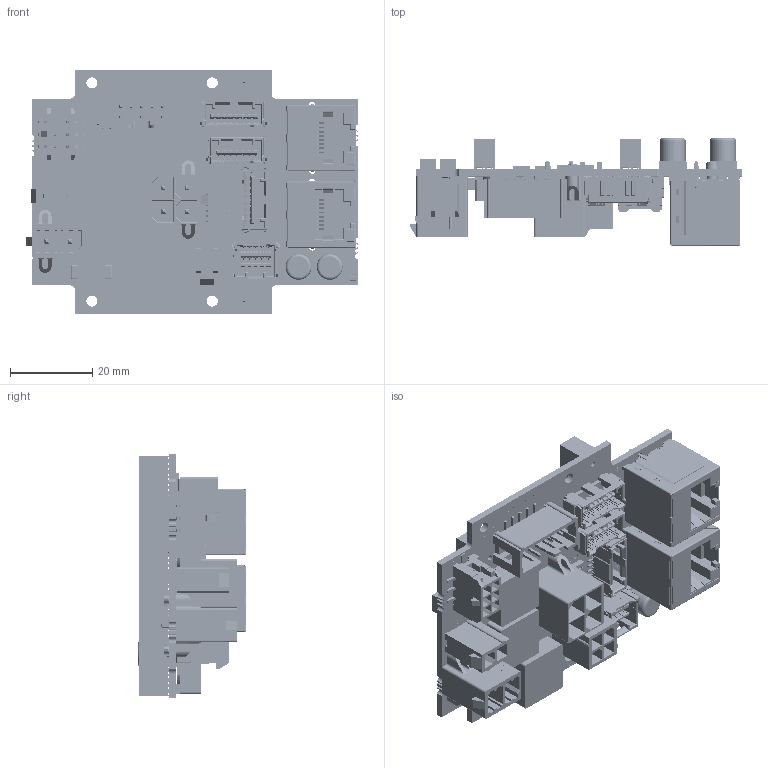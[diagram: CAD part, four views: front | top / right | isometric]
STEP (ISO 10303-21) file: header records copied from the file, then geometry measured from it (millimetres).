
FILE_DESCRIPTION((''),'2;1');
FILE_NAME('EPOS4_POWERCB_ETHERCAT_ASM','2018-06-08T',('mmagrari'),(''),'CREO PARAMETRIC BY PTC INC, 2017020','CREO PARAMETRIC BY PTC INC, 2017020','');
FILE_SCHEMA(('CONFIG_CONTROL_DESIGN'));
Products named in the file (34): EPOS4_POWERCB_PCB_ETHERCAT; EPOS4_POWERCB_PCB_SITO_ETHERCAT; EPOS4_POWERCB_PCB_SIBO_ETHERCAT; SSM_116_L_DV_LC_BODY; C_137_0116; SSM_116_L_DV_LC_ASM; SSM_123_L_DV_LC_BODY; C_137_0123; SSM_123_L_DV_LC_ASM; 1720650002; 1720650004; 039281023; 039281043; 5025840770; 5025840870; 5031541090; 3M_N2510-6V0C-RB; 430450618; DIP_SWITCH_2P_6; CHOKE_13-6MM; ELKO_F80; DO-214AA; FUSE; BASE_1_S; SHIELDING_1_S; ASSEM1_S_ASM; 74990101210_SINGLE_ASM; IC_TQFN50-9X9; LLP8; LED-0606_DUAL_SOCKEL_2; LED-0606-DUAL_GRUEN_3; LED-0606-DUAL_ROT_3; LED-0606-DUAL_ASM_1_ASM; EPOS4_POWERCB_ETHERCAT_ASM
Assembly tree (42 placements, depth 4):
  EPOS4_POWERCB_ETHERCAT_ASM
    EPOS4_POWERCB_PCB_ETHERCAT
    EPOS4_POWERCB_PCB_SITO_ETHERCAT
    EPOS4_POWERCB_PCB_SIBO_ETHERCAT
    SSM_116_L_DV_LC_ASM
      SSM_116_L_DV_LC_BODY
      C_137_0116
    SSM_123_L_DV_LC_ASM
      SSM_123_L_DV_LC_BODY
      C_137_0123
    1720650002
    1720650004
    039281023
    039281043
    5025840770
    5025840870  x2
    5031541090
    3M_N2510-6V0C-RB
    430450618
    DIP_SWITCH_2P_6
    CHOKE_13-6MM  x3
    ELKO_F80  x4
    DO-214AA  x2
    FUSE
    74990101210_SINGLE_ASM  x2
      ASSEM1_S_ASM
        BASE_1_S
        SHIELDING_1_S
    IC_TQFN50-9X9
    LLP8  x2
    LED-0606-DUAL_ASM_1_ASM
      LED-0606_DUAL_SOCKEL_2
      LED-0606-DUAL_GRUEN_3
      LED-0606-DUAL_ROT_3
Bounding box: 80.85 x 26.4 x 59.5 mm (x, y, z)
Volume: 26476.8 mm3; surface area: 56940.2 mm2
Topology: 67 solids, 69 shells, 12510 faces, 36471 edges, 24028 vertices
Faces by surface type: plane 10977, cylinder 1391, extrusion 48, torus 24, sphere 24, bspline 24, cone 22
Entity records: 451814 total; most frequent: CARTESIAN_POINT 65252, ORIENTED_EDGE 62722, DIRECTION 54836, PRESENTATION_STYLE_ASSIGNMENT 31886, STYLED_ITEM 31570, EDGE_CURVE 31364, CURVE_STYLE 31352, VECTOR 28680
